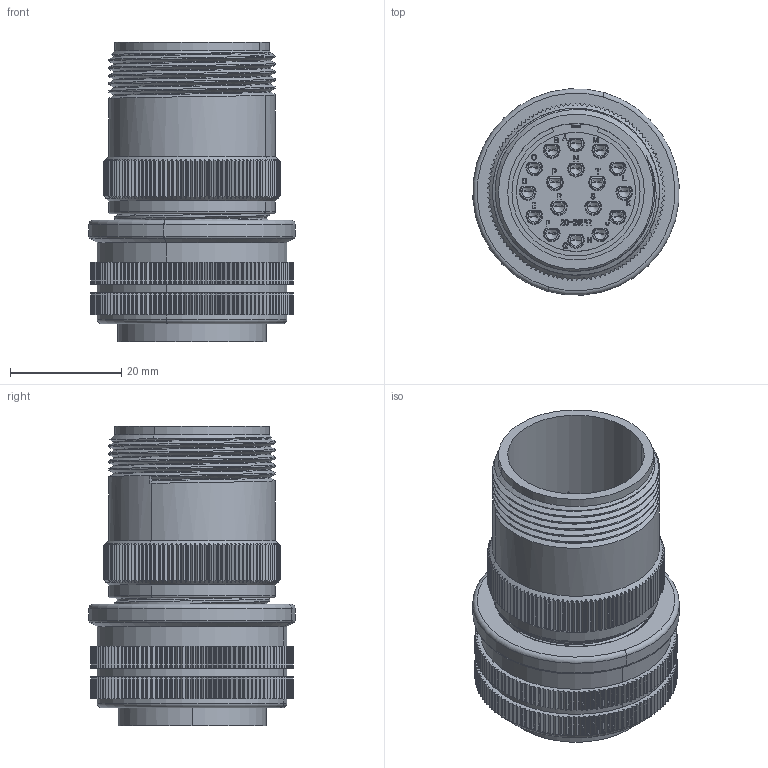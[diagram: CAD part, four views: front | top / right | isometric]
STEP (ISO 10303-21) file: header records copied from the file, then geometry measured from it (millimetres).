
FILE_DESCRIPTION (( 'STEP AP203' ), '1' );
FILE_NAME ('D_MS3106A20-29P.STEP', '2014-11-26T08:00:12', ( '' ), ( '' ), 'SwSTEP 2.0', 'SolidWorks 2012', '' );
FILE_SCHEMA (( 'CONFIG_CONTROL_DESIGN' ));
Products named in the file (1): D_MS3106A20-29P
Bounding box: 37.13 x 37.13 x 54 mm (x, y, z)
Volume: 20951.3 mm3; surface area: 27611.3 mm2
Topology: 1 solids, 2 shells, 4261 faces, 11825 edges, 7710 vertices
Faces by surface type: cylinder 2016, plane 1477, bspline 424, torus 256, cone 52, sphere 36
Entity records: 161549 total; most frequent: CARTESIAN_POINT 55399, ORIENTED_EDGE 23506, DIRECTION 20737, EDGE_CURVE 11753, VERTEX_POINT 7708, AXIS2_PLACEMENT_3D 7517, LINE 5703, VECTOR 5703
